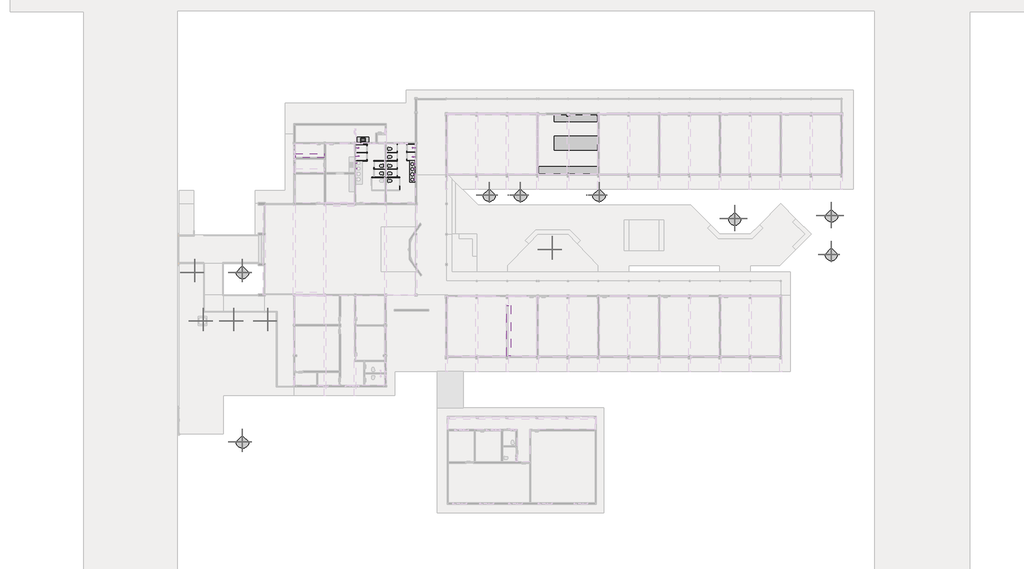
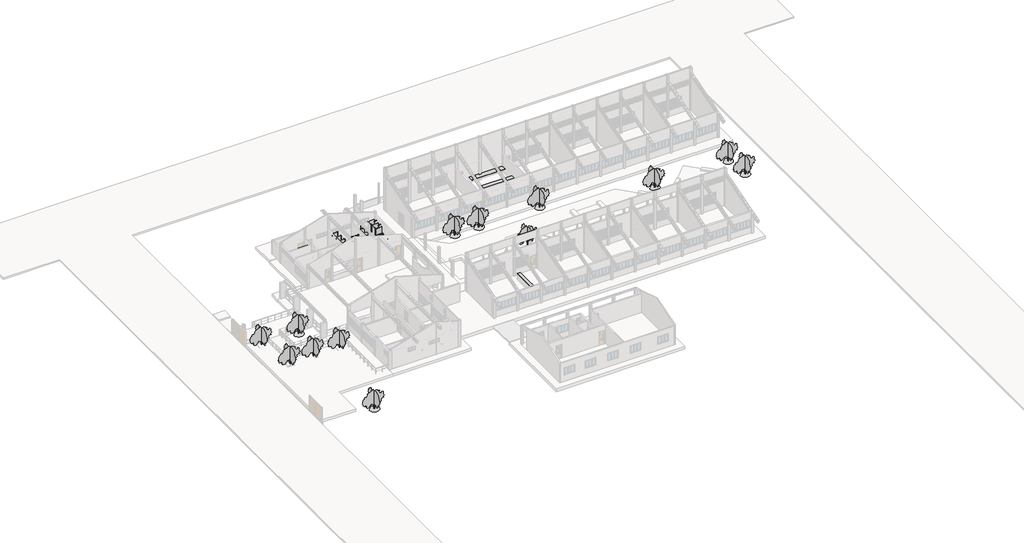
# One storey, part 12 of 12: 36 furniture elements, 18 flow terminals, 13 geographic elements.
"""IFC4 building model written with IfcOpenShell, lengths in millimetres."""

from ifc_helpers import new_model, si_unit, point, frame, frame_2d, origin, place, context, project, spatial, polyline, circle_curve, trimmed, segment, composite_curve, outline, extrude, transform, mapped, element, save
from components import flow_terminal_f470bb56, flow_terminal_20a74c16, flow_terminal_5b9333c3, flow_terminal_6ee619d6, furniture_ba5a2c56, furniture_fbb1e78c, furniture_3c58eeae, furniture_15f8163c, furniture_be9011ed, furniture_d06e8352, furniture_24ea4f47, furniture_5e71001c, furniture_6b89a1b1, furniture_0258e0ed, furniture_743b1cbd, furniture_616dd68d, furniture_bcf798da, furniture_45878de2, furniture_b01e4272, furniture_11f150b7, furniture_e6c1f97e, furniture_46579f0e, furniture_44196881, furniture_f3a46036, furniture_0d5db03c, furniture_369b768e, furniture_6fa5bce5, furniture_566edd09, furniture_53301e92, furniture_083d0adb, furniture_17abe1a5, furniture_c3b57afc, furniture_52fb6396, furniture_31818c5e, furniture_a915ab25, geographic_element_0cbc9d03

model = new_model("IFC4")

# Units and contexts
model_context = context("Model", 3, world=origin())
ifc_project = project(units=[si_unit("LENGTHUNIT", "METRE", prefix="MILLI")], contexts=[model_context])

# Site, building, storey
site = spatial("IfcSite", under=ifc_project)
building = spatial("IfcBuilding", under=site)
storey = spatial("IfcBuildingStorey", under=building, Name="Nível 1", Elevation=0.0)

# Flow terminals
placement = place(None, origin())
flow_terminal_shape = flow_terminal_f470bb56(model_context)
element("IfcFlowTerminal", 1, ObjectType="Deca Torneira Lavatório : Torneira de Banheiro", at=placement, inside=storey, context=model_context, shape_type="MappedRepresentation", body=[
    mapped(flow_terminal_shape, transform((-7693.3907522, 31010.8496826, 1200.0), x_axis=(-0.004489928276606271, 0.9999899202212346, 0.0), y_axis=(-0.9999899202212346, -0.004489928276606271, 0.0), z_axis=(0.0, 0.0, 1.0))),
])
element("IfcFlowTerminal", 2, ObjectType="Deca Torneira Lavatório : Torneira de Banheiro", at=placement, inside=storey, context=model_context, shape_type="MappedRepresentation", body=[
    mapped(flow_terminal_shape, transform((-7690.5396477, 30380.8560833, 1200.0), x_axis=(-0.004489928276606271, 0.9999899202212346, 0.0), y_axis=(-0.9999899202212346, -0.004489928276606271, 0.0), z_axis=(0.0, 0.0, 1.0))),
])
element("IfcFlowTerminal", 3, ObjectType="Deca Torneira Lavatório : Torneira de Banheiro", at=placement, inside=storey, context=model_context, shape_type="MappedRepresentation", body=[
    mapped(flow_terminal_shape, transform((-783.5521429, 29124.9528966, 1200.0), x_axis=(0.0044899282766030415, -0.9999899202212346, 0.0), y_axis=(0.9999899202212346, 0.0044899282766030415, 0.0), z_axis=(0.0, 0.0, 1.0))),
])
element("IfcFlowTerminal", 4, ObjectType="Deca Torneira Lavatório : Torneira de Banheiro", at=placement, inside=storey, context=model_context, shape_type="MappedRepresentation", body=[
    mapped(flow_terminal_shape, transform((-766.4032473, 29734.9464959, 1200.0), x_axis=(0.0044899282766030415, -0.9999899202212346, 0.0), y_axis=(0.9999899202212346, 0.0044899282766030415, 0.0), z_axis=(0.0, 0.0, 1.0))),
])
element("IfcFlowTerminal", 5, ObjectType="Deca Torneira Lavatório : Torneira de Banheiro", at=placement, inside=storey, context=model_context, shape_type="MappedRepresentation", body=[
    mapped(flow_terminal_shape, transform((-769.0200378, 30342.7540426, 1200.0), x_axis=(0.0044899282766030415, -0.9999899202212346, 0.0), y_axis=(0.9999899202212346, 0.0044899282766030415, 0.0), z_axis=(0.0, 0.0, 1.0))),
])
element("IfcFlowTerminal", 6, ObjectType="Deca Torneira Lavatório : Torneira de Banheiro", at=placement, inside=storey, context=model_context, shape_type="MappedRepresentation", body=[
    mapped(flow_terminal_shape, transform((-771.8711423, 30920.247642, 1200.0), x_axis=(0.0044899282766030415, -0.9999899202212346, 0.0), y_axis=(0.9999899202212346, 0.0044899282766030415, 0.0), z_axis=(0.0, 0.0, 1.0))),
])
flow_terminal_2_shape = flow_terminal_20a74c16(model_context)
element("IfcFlowTerminal", 7, ObjectType="Chuveiro : Chuveiro", at=placement, inside=storey, context=model_context, shape_type="MappedRepresentation", body=[
    mapped(flow_terminal_2_shape, transform((-7623.4714475, 31812.765895, 2300.0), x_axis=(0.0, 1.0, 0.0), y_axis=(0.0, 0.0, 1.0), z_axis=(1.0, 0.0, 0.0))),
])
element("IfcFlowTerminal", 8, ObjectType="Chuveiro : Chuveiro", at=placement, inside=storey, context=model_context, shape_type="MappedRepresentation", body=[
    mapped(flow_terminal_2_shape, transform((-7623.4714475, 32766.6546193, 2300.0), x_axis=(0.0, 1.0, 0.0), y_axis=(0.0, 0.0, 1.0), z_axis=(1.0, 0.0, 0.0))),
])
element("IfcFlowTerminal", 9, ObjectType="Chuveiro : Chuveiro", at=placement, inside=storey, context=model_context, shape_type="MappedRepresentation", body=[
    mapped(flow_terminal_2_shape, transform((-773.4714475, 31737.9151073, 2300.0), x_axis=(0.0, -1.0, 0.0), y_axis=(0.0, 0.0, 1.0), z_axis=(-1.0, 0.0, 0.0))),
])
element("IfcFlowTerminal", 10, ObjectType="Chuveiro : Chuveiro", at=placement, inside=storey, context=model_context, shape_type="MappedRepresentation", body=[
    mapped(flow_terminal_2_shape, transform((-773.4714475, 32780.8076475, 2300.0), x_axis=(0.0, -1.0, 0.0), y_axis=(0.0, 0.0, 1.0), z_axis=(-1.0, 0.0, 0.0))),
])
flow_terminal_3_shape = flow_terminal_5b9333c3(model_context)
element("IfcFlowTerminal", 11, ObjectType="Cuba_Cozinha : Cuba 40x50", at=placement, inside=storey, context=model_context, shape_type="MappedRepresentation", body=[
    mapped(flow_terminal_3_shape, transform((-6816.9782517, 33706.626354, 300.0), x_axis=(-1.0, 0.0, 0.0), y_axis=(0.0, -1.0, 0.0), z_axis=(0.0, 0.0, 1.0))),
])
flow_terminal_4_shape = flow_terminal_6ee619d6(model_context)
element("IfcFlowTerminal", 12, ObjectType="Deca_Shared_Assento_P.8 : AP.80_Branco Gelo GE17", at=placement, inside=storey, context=model_context, shape_type="MappedRepresentation", body=[
    mapped(flow_terminal_4_shape, transform((-3953.1706016, 28977.8208696, 680.0), x_axis=(0.0, 1.0, 0.0), y_axis=(0.0, 0.0, 1.0), z_axis=(1.0, 0.0, 0.0))),
])
element("IfcFlowTerminal", 13, ObjectType="Deca_Shared_Assento_P.8 : AP.80_Branco Gelo GE17", at=placement, inside=storey, context=model_context, shape_type="MappedRepresentation", body=[
    mapped(flow_terminal_4_shape, transform((-3953.1706016, 29819.591583, 680.0), x_axis=(0.0, 1.0, 0.0), y_axis=(0.0, 0.0, 1.0), z_axis=(1.0, 0.0, 0.0))),
])
element("IfcFlowTerminal", 14, ObjectType="Deca_Shared_Assento_P.8 : AP.80_Branco Gelo GE17", at=placement, inside=storey, context=model_context, shape_type="MappedRepresentation", body=[
    mapped(flow_terminal_4_shape, transform((-3953.1706016, 30711.564609, 680.0), x_axis=(0.0, 1.0, 0.0), y_axis=(0.0, 0.0, 1.0), z_axis=(1.0, 0.0, 0.0))),
])
element("IfcFlowTerminal", 15, ObjectType="Deca_Shared_Assento_P.8 : AP.80_Branco Gelo GE17", at=placement, inside=storey, context=model_context, shape_type="MappedRepresentation", body=[
    mapped(flow_terminal_4_shape, transform((-3953.1706016, 31725.4341658, 680.0), x_axis=(0.0, 1.0, 0.0), y_axis=(0.0, 0.0, 1.0), z_axis=(1.0, 0.0, 0.0))),
])
element("IfcFlowTerminal", 16, ObjectType="Deca_Shared_Assento_P.8 : AP.80_Branco Gelo GE17", at=placement, inside=storey, context=model_context, shape_type="MappedRepresentation", body=[
    mapped(flow_terminal_4_shape, transform((-3953.1706016, 32667.112601, 680.0), x_axis=(0.0, 1.0, 0.0), y_axis=(0.0, 0.0, 1.0), z_axis=(1.0, 0.0, 0.0))),
])
element("IfcFlowTerminal", 17, ObjectType="Deca_Shared_Assento_P.8 : AP.80_Branco Gelo GE17", at=placement, inside=storey, context=model_context, shape_type="MappedRepresentation", body=[
    mapped(flow_terminal_4_shape, transform((-4443.7722934, 30717.2352104, 680.0), x_axis=(0.0, -1.0, 0.0), y_axis=(0.0, 0.0, 1.0), z_axis=(-1.0, 0.0, 0.0))),
])
element("IfcFlowTerminal", 18, ObjectType="Deca_Shared_Assento_P.8 : AP.80_Branco Gelo GE17", at=placement, inside=storey, context=model_context, shape_type="MappedRepresentation", body=[
    mapped(flow_terminal_4_shape, transform((-4443.7722934, 29827.2190227, 680.0), x_axis=(0.0, -1.0, 0.0), y_axis=(0.0, 0.0, 1.0), z_axis=(-1.0, 0.0, 0.0))),
])

# Furniture
element("IfcFurniture", 19, ObjectType="Bancada_balcao : Bancada cantina", at=placement, inside=storey, context=model_context, shape_type="SweptSolid", body=[
    extrude(outline(polyline([(-773.4714475, 28806.1862478), (-1423.5268603, 28806.1862478), (-1423.5268603, 31306.1862478), (-773.4714475, 31306.1862478), (-773.4714475, 28806.1862478)]), holes=[composite_curve([segment(trimmed(circle_curve(frame_2d((-1132.0069814, 29128.1518653)), 182.5445298), [point((-949.4624516, 29128.1518653))], [point((-1314.5515113, 29128.1518653))], True, "CARTESIAN"), True, "CONTINUOUS"), segment(trimmed(circle_curve(frame_2d((-1132.0069814, 29128.1518653)), 182.5445298), [point((-1314.5515113, 29128.1518653))], [point((-949.4624516, 29128.1518653))], True, "CARTESIAN"), True, "CONTINUOUS")], self_intersect=False), composite_curve([segment(trimmed(circle_curve(frame_2d((-1133.4714475, 29734.6163314)), 182.5445298), [point((-950.9269177, 29734.6163314))], [point((-1316.0159774, 29734.6163314))], True, "CARTESIAN"), True, "CONTINUOUS"), segment(trimmed(circle_curve(frame_2d((-1133.4714475, 29734.6163314)), 182.5445298), [point((-1316.0159774, 29734.6163314))], [point((-950.9269177, 29734.6163314))], True, "CARTESIAN"), True, "CONTINUOUS")], self_intersect=False), composite_curve([segment(trimmed(circle_curve(frame_2d((-1128.4714475, 30344.6163314)), 182.5445298), [point((-945.9269177, 30344.6163314))], [point((-1311.0159774, 30344.6163314))], True, "CARTESIAN"), True, "CONTINUOUS"), segment(trimmed(circle_curve(frame_2d((-1128.4714475, 30344.6163314)), 182.5445298), [point((-1311.0159774, 30344.6163314))], [point((-945.9269177, 30344.6163314))], True, "CARTESIAN"), True, "CONTINUOUS")], self_intersect=False), composite_curve([segment(trimmed(circle_curve(frame_2d((-1128.6554088, 30917.7829413)), 182.5445298), [point((-946.1108789, 30917.7829413))], [point((-1311.1999386, 30917.7829413))], True, "CARTESIAN"), True, "CONTINUOUS"), segment(trimmed(circle_curve(frame_2d((-1128.6554088, 30917.7829413)), 182.5445298), [point((-1311.1999386, 30917.7829413))], [point((-946.1108789, 30917.7829413))], True, "CARTESIAN"), True, "CONTINUOUS")], self_intersect=False)]), frame((0.0, 0.0, 1180.0), z_axis=(0.0, 0.0, 1.0), x_axis=(1.0, 0.0, 0.0)), (0.0, 0.0, 1.0), 20.0),
])
furniture_shape = furniture_ba5a2c56(model_context)
element("IfcFurniture", 20, ObjectType="Divisoria_Lateral Fechada : Divisoria_Lateral Fechada_130x180", at=placement, inside=storey, context=model_context, shape_type="MappedRepresentation", body=[
    mapped(furniture_shape, transform((-823.4714475, 33285.8865742, 300.0), x_axis=(0.0, -1.0, 0.0), y_axis=(1.0, 0.0, 0.0), z_axis=(0.0, 0.0, 1.0))),
])
element("IfcFurniture", 21, ObjectType="Divisoria_Lateral Fechada : Divisoria_Lateral Fechada_130x180", at=placement, inside=storey, context=model_context, shape_type="MappedRepresentation", body=[
    mapped(furniture_shape, transform((-823.4714475, 32325.8865742, 300.0), x_axis=(0.0, -1.0, 0.0), y_axis=(1.0, 0.0, 0.0), z_axis=(0.0, 0.0, 1.0))),
])
element("IfcFurniture", 22, ObjectType="Divisoria_Lateral Fechada : Divisoria_Lateral Fechada_130x180", at=placement, inside=storey, context=model_context, shape_type="MappedRepresentation", body=[
    mapped(furniture_shape, transform((-823.4714475, 31365.8865742, 300.0), x_axis=(0.0, -1.0, 0.0), y_axis=(1.0, 0.0, 0.0), z_axis=(0.0, 0.0, 1.0))),
])
furniture_2_shape = furniture_fbb1e78c(model_context)
element("IfcFurniture", 23, ObjectType="Divisoria_Lateral Fechada : Divisoria_Lateral Fechada_130x180", at=placement, inside=storey, context=model_context, shape_type="MappedRepresentation", body=[
    mapped(furniture_2_shape, transform((-1803.171774, 31488.9495992, 300.0), x_axis=(1.0, 0.0, 0.0), y_axis=(0.0, 1.0, 0.0), z_axis=(0.0, 0.0, 1.0))),
])
furniture_3_shape = furniture_3c58eeae(model_context)
element("IfcFurniture", 24, ObjectType="Divisoria_Lateral Fechada : Divisoria_Lateral Fechada_130x180", at=placement, inside=storey, context=model_context, shape_type="MappedRepresentation", body=[
    mapped(furniture_3_shape, transform((-1803.171774, 33206.1862478, 300.0), x_axis=(1.0, 0.0, 0.0), y_axis=(0.0, 1.0, 0.0), z_axis=(0.0, 0.0, 1.0))),
])
element("IfcFurniture", 25, ObjectType="Divisoria_Lateral Fechada : Divisoria_Lateral Fechada_130x180", at=placement, inside=storey, context=model_context, shape_type="MappedRepresentation", body=[
    mapped(furniture_3_shape, transform((-2910.171774, 33206.1862478, 300.0), x_axis=(1.0, 0.0, 0.0), y_axis=(0.0, 1.0, 0.0), z_axis=(0.0, 0.0, 1.0))),
])
furniture_4_shape = furniture_15f8163c(model_context)
element("IfcFurniture", 26, ObjectType="Divisoria_Lateral Fechada : Divisoria_Lateral Fechada_130x180", at=placement, inside=storey, context=model_context, shape_type="MappedRepresentation", body=[
    mapped(furniture_4_shape, transform((-1803.171774, 32436.1862478, 300.0), x_axis=(1.0, 0.0, 0.0), y_axis=(0.0, 1.0, 0.0), z_axis=(0.0, 0.0, 1.0))),
])
element("IfcFurniture", 27, ObjectType="Divisoria_Lateral Fechada : Divisoria_Lateral Fechada_130x180", at=placement, inside=storey, context=model_context, shape_type="MappedRepresentation", body=[
    mapped(furniture_4_shape, transform((-2908.921774, 31486.1862478, 300.0), x_axis=(1.0, 0.0, 0.0), y_axis=(0.0, 1.0, 0.0), z_axis=(0.0, 0.0, 1.0))),
])
furniture_5_shape = furniture_be9011ed(model_context)
element("IfcFurniture", 28, ObjectType="Divisoria_Lateral Fechada : Divisoria_Lateral Fechada_130x180", at=placement, inside=storey, context=model_context, shape_type="MappedRepresentation", body=[
    mapped(furniture_5_shape, transform((-2908.921774, 29586.1862478, 300.0), x_axis=(1.0, 0.0, 0.0), y_axis=(0.0, 1.0, 0.0), z_axis=(0.0, 0.0, 1.0))),
])
furniture_6_shape = furniture_d06e8352(model_context)
element("IfcFurniture", 29, ObjectType="Divisoria_Lateral Fechada : Divisoria_Lateral Fechada_130x180", at=placement, inside=storey, context=model_context, shape_type="MappedRepresentation", body=[
    mapped(furniture_6_shape, transform((-2930.6670497, 32275.8865742, 300.0), x_axis=(0.0, -1.0, 0.0), y_axis=(1.0, 0.0, 0.0), z_axis=(0.0, 0.0, 1.0))),
])
furniture_7_shape = furniture_24ea4f47(model_context)
element("IfcFurniture", 30, ObjectType="Divisoria_Lateral Fechada : Divisoria_Lateral Fechada_130x180", at=placement, inside=storey, context=model_context, shape_type="MappedRepresentation", body=[
    mapped(furniture_7_shape, transform((-2910.171774, 32446.1862478, 300.0), x_axis=(1.0, 0.0, 0.0), y_axis=(0.0, 1.0, 0.0), z_axis=(0.0, 0.0, 1.0))),
])
furniture_8_shape = furniture_5e71001c(model_context)
element("IfcFurniture", 31, ObjectType="Divisoria_Lateral Fechada : Divisoria_Lateral Fechada_130x180", at=placement, inside=storey, context=model_context, shape_type="MappedRepresentation", body=[
    mapped(furniture_8_shape, transform((-2908.296774, 30537.2618672, 300.0), x_axis=(1.0, 0.0, 0.0), y_axis=(0.0, 1.0, 0.0), z_axis=(0.0, 0.0, 1.0))),
])
furniture_9_shape = furniture_6b89a1b1(model_context)
element("IfcFurniture", 32, ObjectType="Divisoria_Lateral Fechada : Divisoria_Lateral Fechada_130x180", at=placement, inside=storey, context=model_context, shape_type="MappedRepresentation", body=[
    mapped(furniture_9_shape, transform((-2633.3052305, 29356.2071859, 300.0), x_axis=(1.0, 0.0, 0.0), y_axis=(0.0, 1.0, 0.0), z_axis=(0.0, 0.0, 1.0))),
])
furniture_10_shape = furniture_0258e0ed(model_context)
element("IfcFurniture", 33, ObjectType="Divisoria_Lateral Fechada : Divisoria_Lateral Fechada_130x180", at=placement, inside=storey, context=model_context, shape_type="MappedRepresentation", body=[
    mapped(furniture_10_shape, transform((-2653.3992255, 29435.8865742, 300.0), x_axis=(0.0, -1.0, 0.0), y_axis=(1.0, 0.0, 0.0), z_axis=(0.0, 0.0, 1.0))),
])
furniture_11_shape = furniture_743b1cbd(model_context)
element("IfcFurniture", 34, ObjectType="Divisoria_Lateral Fechada : Divisoria_Lateral Fechada_130x180", at=placement, inside=storey, context=model_context, shape_type="MappedRepresentation", body=[
    mapped(furniture_11_shape, transform((-2632.6802305, 28418.9479891, 300.0), x_axis=(1.0, 0.0, 0.0), y_axis=(0.0, 1.0, 0.0), z_axis=(0.0, 0.0, 1.0))),
])
furniture_12_shape = furniture_616dd68d(model_context)
element("IfcFurniture", 35, ObjectType="Divisoria_Lateral Fechada : Divisoria_Lateral Fechada_130x180", at=placement, inside=storey, context=model_context, shape_type="MappedRepresentation", body=[
    mapped(furniture_12_shape, transform((-5488.6461211, 30537.2618672, 300.0), x_axis=(-1.0, 0.0, 0.0), y_axis=(0.0, -1.0, 0.0), z_axis=(0.0, 0.0, 1.0))),
])
furniture_13_shape = furniture_bcf798da(model_context)
element("IfcFurniture", 36, ObjectType="Divisoria_Lateral Fechada : Divisoria_Lateral Fechada_130x180", at=placement, inside=storey, context=model_context, shape_type="MappedRepresentation", body=[
    mapped(furniture_13_shape, transform((-5763.6376645, 29356.2071859, 300.0), x_axis=(-1.0, 0.0, 0.0), y_axis=(0.0, -1.0, 0.0), z_axis=(0.0, 0.0, 1.0))),
])
furniture_14_shape = furniture_45878de2(model_context)
element("IfcFurniture", 37, ObjectType="Divisoria_Lateral Fechada : Divisoria_Lateral Fechada_130x180", at=placement, inside=storey, context=model_context, shape_type="MappedRepresentation", body=[
    mapped(furniture_14_shape, transform((-5743.5436695, 29435.8865742, 300.0), x_axis=(0.0, -1.0, 0.0), y_axis=(1.0, 0.0, 0.0), z_axis=(0.0, 0.0, 1.0))),
])
furniture_15_shape = furniture_b01e4272(model_context)
element("IfcFurniture", 38, ObjectType="Divisoria_Lateral Fechada : Divisoria_Lateral Fechada_130x180", at=placement, inside=storey, context=model_context, shape_type="MappedRepresentation", body=[
    mapped(furniture_15_shape, transform((-5488.6461211, 31246.3426815, 300.0), x_axis=(-1.0, 0.0, 0.0), y_axis=(0.0, -1.0, 0.0), z_axis=(0.0, 0.0, 1.0))),
])
furniture_16_shape = furniture_11f150b7(model_context)
element("IfcFurniture", 39, ObjectType="Divisoria_Lateral Fechada : Divisoria_Lateral Fechada_130x180", at=placement, inside=storey, context=model_context, shape_type="MappedRepresentation", body=[
    mapped(furniture_16_shape, transform((-2929.4095448, 31325.8865742, 300.0), x_axis=(0.0, -1.0, 0.0), y_axis=(1.0, 0.0, 0.0), z_axis=(0.0, 0.0, 1.0))),
])
furniture_17_shape = furniture_e6c1f97e(model_context)
element("IfcFurniture", 40, ObjectType="Divisoria_Lateral Fechada : Divisoria_Lateral Fechada_130x180", at=placement, inside=storey, context=model_context, shape_type="MappedRepresentation", body=[
    mapped(furniture_17_shape, transform((-2928.6686049, 30375.8865742, 300.0), x_axis=(0.0, -1.0, 0.0), y_axis=(1.0, 0.0, 0.0), z_axis=(0.0, 0.0, 1.0))),
])
furniture_18_shape = furniture_46579f0e(model_context)
element("IfcFurniture", 41, ObjectType="Divisoria_Lateral Fechada : Divisoria_Lateral Fechada_130x180", at=placement, inside=storey, context=model_context, shape_type="MappedRepresentation", body=[
    mapped(furniture_18_shape, transform((-5467.9395791, 30375.8865742, 300.0), x_axis=(0.0, -1.0, 0.0), y_axis=(1.0, 0.0, 0.0), z_axis=(0.0, 0.0, 1.0))),
])
furniture_19_shape = furniture_44196881(model_context)
element("IfcFurniture", 42, ObjectType="Divisoria_Lateral Fechada : Divisoria_Lateral Fechada_130x180", at=placement, inside=storey, context=model_context, shape_type="MappedRepresentation", body=[
    mapped(furniture_19_shape, transform((-5468.591893, 31325.8865742, 300.0), x_axis=(0.0, -1.0, 0.0), y_axis=(1.0, 0.0, 0.0), z_axis=(0.0, 0.0, 1.0))),
])
furniture_20_shape = furniture_f3a46036(model_context)
element("IfcFurniture", 43, ObjectType="Divisoria_Lateral Fechada : Divisoria_Lateral Fechada_130x180", at=placement, inside=storey, context=model_context, shape_type="MappedRepresentation", body=[
    mapped(furniture_20_shape, transform((-6318.7711211, 32302.3234703, 300.0), x_axis=(-1.0, 0.0, 0.0), y_axis=(0.0, -1.0, 0.0), z_axis=(0.0, 0.0, 1.0))),
])
furniture_21_shape = furniture_0d5db03c(model_context)
element("IfcFurniture", 44, ObjectType="Divisoria_Lateral Fechada : Divisoria_Lateral Fechada_130x180", at=placement, inside=storey, context=model_context, shape_type="MappedRepresentation", body=[
    mapped(furniture_21_shape, transform((-7573.4714475, 32275.8865742, 300.0), x_axis=(0.0, -1.0, 0.0), y_axis=(1.0, 0.0, 0.0), z_axis=(0.0, 0.0, 1.0))),
])
furniture_22_shape = furniture_369b768e(model_context)
element("IfcFurniture", 45, ObjectType="Divisoria_Lateral Fechada : Divisoria_Lateral Fechada_130x180", at=placement, inside=storey, context=model_context, shape_type="MappedRepresentation", body=[
    mapped(furniture_22_shape, transform((-6318.7711211, 31428.9495992, 300.0), x_axis=(-1.0, 0.0, 0.0), y_axis=(0.0, -1.0, 0.0), z_axis=(0.0, 0.0, 1.0))),
])
furniture_23_shape = furniture_6fa5bce5(model_context)
element("IfcFurniture", 46, ObjectType="Divisoria_Lateral Fechada : Divisoria_Lateral Fechada_130x180", at=placement, inside=storey, context=model_context, shape_type="MappedRepresentation", body=[
    mapped(furniture_23_shape, transform((-7574.0471682, 31315.8865742, 300.0), x_axis=(0.0, -1.0, 0.0), y_axis=(1.0, 0.0, 0.0), z_axis=(0.0, 0.0, 1.0))),
])
furniture_24_shape = furniture_566edd09(model_context)
element("IfcFurniture", 47, ObjectType="Divisoria_Lateral Fechada : Divisoria_Lateral Fechada_130x180", at=placement, inside=storey, context=model_context, shape_type="MappedRepresentation", body=[
    mapped(furniture_24_shape, transform((-6318.7711211, 33146.1862478, 300.0), x_axis=(-1.0, 0.0, 0.0), y_axis=(0.0, -1.0, 0.0), z_axis=(0.0, 0.0, 1.0))),
])
furniture_25_shape = furniture_53301e92(model_context)
element("IfcFurniture", 48, ObjectType="Divisoria_Lateral Fechada : Divisoria_Lateral Fechada_130x180", at=placement, inside=storey, context=model_context, shape_type="MappedRepresentation", body=[
    mapped(furniture_25_shape, transform((-7571.7625172, 33225.8865742, 300.0), x_axis=(0.0, -1.0, 0.0), y_axis=(1.0, 0.0, 0.0), z_axis=(0.0, 0.0, 1.0))),
])
furniture_26_shape = furniture_083d0adb(model_context)
element("IfcFurniture", 49, ObjectType="Bancada_balcao : Bancada cantina", at=placement, inside=storey, context=model_context, shape_type="MappedRepresentation", body=[
    mapped(furniture_26_shape, transform((10224.110358, 11656.8924665, 320.0), x_axis=(0.0, 1.0, 0.0), y_axis=(-1.0, 0.0, 0.0), z_axis=(0.0, 0.0, 1.0))),
])
furniture_27_shape = furniture_17abe1a5(model_context)
element("IfcFurniture", 50, ObjectType="Prateleira : Prateleira 6", at=placement, inside=storey, context=model_context, shape_type="MappedRepresentation", body=[
    mapped(furniture_27_shape, transform((-13373.0089466, 32105.7862478, 1300.0), x_axis=(1.0, 0.0, 0.0), y_axis=(0.0, 1.0, 0.0), z_axis=(0.0, 0.0, 1.0))),
])
furniture_28_shape = furniture_c3b57afc(model_context)
element("IfcFurniture", 51, ObjectType="Bancada_balcao : Bancada cantina", at=placement, inside=storey, context=model_context, shape_type="MappedRepresentation", body=[
    mapped(furniture_28_shape, transform((-6865.2846935, 34006.626354, 300.0), x_axis=(1.0, 0.0, 0.0), y_axis=(0.0, 1.0, 0.0), z_axis=(0.0, 0.0, 1.0))),
])
furniture_29_shape = furniture_52fb6396(model_context)
element("IfcFurniture", 52, ObjectType="Bancada_balcao : Bancada cantina", at=placement, inside=storey, context=model_context, shape_type="MappedRepresentation", body=[
    mapped(furniture_29_shape, transform((16756.828226, 30631.1797638, 300.0), x_axis=(1.0, 0.0, 0.0), y_axis=(0.0, 1.0, 0.0), z_axis=(0.0, 0.0, 1.0))),
])
furniture_30_shape = furniture_31818c5e(model_context)
element("IfcFurniture", 53, ObjectType="Bancada_balcao : Bancada cantina", at=placement, inside=storey, context=model_context, shape_type="MappedRepresentation", body=[
    mapped(furniture_30_shape, transform((17681.8005197, 36626.0629917, 300.0), x_axis=(1.0, 0.0, 0.0), y_axis=(0.0, 1.0, 0.0), z_axis=(0.0, 0.0, 1.0))),
])
furniture_31_shape = furniture_a915ab25(model_context)
element("IfcFurniture", 54, ObjectType="Bancada_balcao : Bancada cantina", at=placement, inside=storey, context=model_context, shape_type="MappedRepresentation", body=[
    mapped(furniture_31_shape, transform((17681.8005197, 34131.1862478, 300.0), x_axis=(1.0, 0.0, 0.0), y_axis=(0.0, 1.0, 0.0), z_axis=(0.0, 0.0, 1.0))),
])

# Geographic elements
geographic_element_shape = geographic_element_0cbc9d03(model_context)
element("IfcGeographicElement", 55, ObjectType="RPC Árvore - Tropical : Árvore menor - 3 metros", at=placement, inside=storey, context=model_context, shape_type="MappedRepresentation", body=[
    mapped(geographic_element_shape, transform((14980.8374128, 21071.8672165, 0.0), x_axis=(1.0, 0.0, 0.0), y_axis=(0.0, 1.0, 0.0), z_axis=(0.0, 0.0, 1.0))),
])
element("IfcGeographicElement", 56, ObjectType="RPC Árvore - Tropical : Árvore menor - 3 metros", at=placement, inside=storey, context=model_context, shape_type="MappedRepresentation", body=[
    mapped(geographic_element_shape, transform((47118.9783616, 20510.6321057, 300.0), x_axis=(1.0, 0.0, 0.0), y_axis=(0.0, 1.0, 0.0), z_axis=(0.0, 0.0, 1.0))),
])
element("IfcGeographicElement", 57, ObjectType="RPC Árvore - Tropical : Árvore menor - 3 metros", at=placement, inside=storey, context=model_context, shape_type="MappedRepresentation", body=[
    mapped(geographic_element_shape, transform((47136.7782904, 24970.6037693, -366.2950557), x_axis=(1.0, 0.0, 0.0), y_axis=(0.0, 1.0, 0.0), z_axis=(0.0, 0.0, 1.0))),
])
element("IfcGeographicElement", 58, ObjectType="RPC Árvore - Tropical : Árvore menor - 3 metros", at=placement, inside=storey, context=model_context, shape_type="MappedRepresentation", body=[
    mapped(geographic_element_shape, transform((36001.4090978, 24606.6079516, -400.0), x_axis=(1.0, 0.0, 0.0), y_axis=(0.0, 1.0, 0.0), z_axis=(0.0, 0.0, 1.0))),
])
element("IfcGeographicElement", 59, ObjectType="RPC Árvore - Tropical : Árvore menor - 3 metros", at=placement, inside=storey, context=model_context, shape_type="MappedRepresentation", body=[
    mapped(geographic_element_shape, transform((11326.3318814, 27331.1862478, 300.0), x_axis=(1.0, 0.0, 0.0), y_axis=(0.0, 1.0, 0.0), z_axis=(0.0, 0.0, 1.0))),
])
element("IfcGeographicElement", 60, ObjectType="RPC Árvore - Tropical : Árvore menor - 3 metros", at=placement, inside=storey, context=model_context, shape_type="MappedRepresentation", body=[
    mapped(geographic_element_shape, transform((7726.3318814, 27331.1862478, 300.0), x_axis=(1.0, 0.0, 0.0), y_axis=(0.0, 1.0, 0.0), z_axis=(0.0, 0.0, 1.0))),
])
element("IfcGeographicElement", 61, ObjectType="RPC Árvore - Tropical : Árvore menor - 3 metros", at=placement, inside=storey, context=model_context, shape_type="MappedRepresentation", body=[
    mapped(geographic_element_shape, transform((20376.3318814, 27331.1862478, 300.0), x_axis=(1.0, 0.0, 0.0), y_axis=(0.0, 1.0, 0.0), z_axis=(0.0, 0.0, 1.0))),
])
element("IfcGeographicElement", 62, ObjectType="RPC Árvore - Tropical : Árvore menor - 3 metros", at=placement, inside=storey, context=model_context, shape_type="MappedRepresentation", body=[
    mapped(geographic_element_shape, transform((-17793.6913027, 12831.1862478, 50.0), x_axis=(1.0, 0.0, 0.0), y_axis=(0.0, 1.0, 0.0), z_axis=(0.0, 0.0, 1.0))),
])
element("IfcGeographicElement", 63, ObjectType="RPC Árvore - Tropical : Árvore menor - 3 metros", at=placement, inside=storey, context=model_context, shape_type="MappedRepresentation", body=[
    mapped(geographic_element_shape, transform((-21693.6913027, 12831.1862478, 100.0), x_axis=(1.0, 0.0, 0.0), y_axis=(0.0, 1.0, 0.0), z_axis=(0.0, 0.0, 1.0))),
])
element("IfcGeographicElement", 64, ObjectType="RPC Árvore - Tropical : Árvore menor - 3 metros", at=placement, inside=storey, context=model_context, shape_type="MappedRepresentation", body=[
    mapped(geographic_element_shape, transform((-20693.6913027, -1123.6063249, 100.0), x_axis=(1.0, 0.0, 0.0), y_axis=(0.0, 1.0, 0.0), z_axis=(0.0, 0.0, 1.0))),
])
element("IfcGeographicElement", 65, ObjectType="RPC Árvore - Tropical : Árvore menor - 3 metros", at=placement, inside=storey, context=model_context, shape_type="MappedRepresentation", body=[
    mapped(geographic_element_shape, transform((-25193.6913027, 12831.1862478, 100.0), x_axis=(1.0, 0.0, 0.0), y_axis=(0.0, 1.0, 0.0), z_axis=(0.0, 0.0, 1.0))),
])
element("IfcGeographicElement", 66, ObjectType="RPC Árvore - Tropical : Árvore menor - 3 metros", at=placement, inside=storey, context=model_context, shape_type="MappedRepresentation", body=[
    mapped(geographic_element_shape, transform((-26193.6913027, 18431.1862478, 100.0), x_axis=(1.0, 0.0, 0.0), y_axis=(0.0, 1.0, 0.0), z_axis=(0.0, 0.0, 1.0))),
])
element("IfcGeographicElement", 67, ObjectType="RPC Árvore - Tropical : Árvore menor - 3 metros", at=placement, inside=storey, context=model_context, shape_type="MappedRepresentation", body=[
    mapped(geographic_element_shape, transform((-20693.6913027, 18431.1862478, 100.0), x_axis=(1.0, 0.0, 0.0), y_axis=(0.0, 1.0, 0.0), z_axis=(0.0, 0.0, 1.0))),
])

save(model, "model.ifc")
